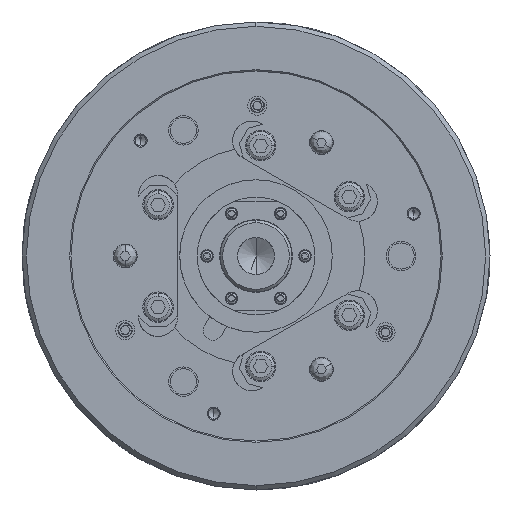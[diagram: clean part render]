
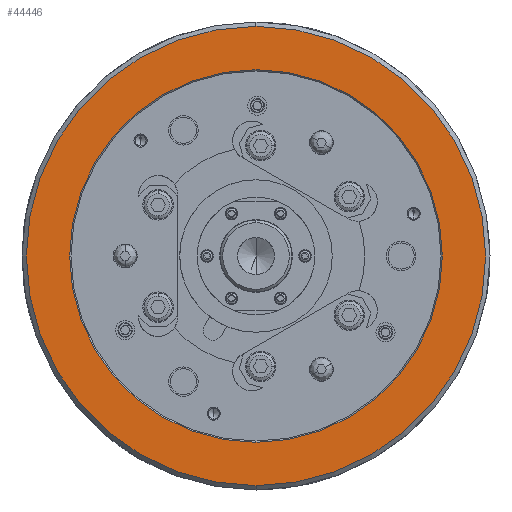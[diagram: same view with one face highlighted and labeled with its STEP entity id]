
A CAD part, left-side view. The second image highlights one B-rep face of the part: STEP entity #44446.
In plain terms, the highlighted planar face has unit normal (-1, 0, 0).
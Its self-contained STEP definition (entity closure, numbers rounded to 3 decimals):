
#328 = CIRCLE ( 'NONE', #44485, 85.6 ) ;
#1272 = ORIENTED_EDGE ( 'NONE', *, *, #39042, .F. ) ;
#2508 = DIRECTION ( 'NONE',  ( 1., 0., 0. ) ) ;
#3089 = CARTESIAN_POINT ( 'NONE',  ( -99., 0., 105.5 ) ) ;
#4822 = EDGE_CURVE ( 'NONE', #64275, #39747, #328, .T. ) ;
#10387 = FACE_OUTER_BOUND ( 'NONE', #80773, .T. ) ;
#12644 = FACE_BOUND ( 'NONE', #70548, .T. ) ;
#14189 = CARTESIAN_POINT ( 'NONE',  ( -99., 0., -105.5 ) ) ;
#15953 = EDGE_CURVE ( 'NONE', #39747, #64275, #22112, .T. ) ;
#19540 = DIRECTION ( 'NONE',  ( 1., 0., 0. ) ) ;
#20137 = EDGE_CURVE ( 'NONE', #64165, #81240, #54676, .T. ) ;
#20286 = PLANE ( 'NONE',  #21129 ) ;
#20916 = DIRECTION ( 'NONE',  ( 0., 0., 1. ) ) ;
#21012 = DIRECTION ( 'NONE',  ( 1., 0., 0. ) ) ;
#21043 = CARTESIAN_POINT ( 'NONE',  ( -99., 0., 0. ) ) ;
#21129 = AXIS2_PLACEMENT_3D ( 'NONE', #40912, #69439, #27362 ) ;
#22112 = CIRCLE ( 'NONE', #44219, 85.6 ) ;
#22302 = CARTESIAN_POINT ( 'NONE',  ( -99., 0., 85.6 ) ) ;
#27362 = DIRECTION ( 'NONE',  ( 0., 0., 1. ) ) ;
#31113 = CARTESIAN_POINT ( 'NONE',  ( -99., 0., -85.6 ) ) ;
#34111 = ORIENTED_EDGE ( 'NONE', *, *, #20137, .F. ) ;
#35942 = AXIS2_PLACEMENT_3D ( 'NONE', #44799, #2508, #51854 ) ;
#36382 = CARTESIAN_POINT ( 'NONE',  ( -99., 0., 0. ) ) ;
#38806 = ORIENTED_EDGE ( 'NONE', *, *, #15953, .T. ) ;
#39042 = EDGE_CURVE ( 'NONE', #81240, #64165, #53797, .T. ) ;
#39747 = VERTEX_POINT ( 'NONE', #22302 ) ;
#40912 = CARTESIAN_POINT ( 'NONE',  ( -99., 52.75, -91.366 ) ) ;
#43450 = DIRECTION ( 'NONE',  ( 0., 0., -1. ) ) ;
#44143 = ORIENTED_EDGE ( 'NONE', *, *, #4822, .T. ) ;
#44219 = AXIS2_PLACEMENT_3D ( 'NONE', #61637, #19540, #68663 ) ;
#44446 = ADVANCED_FACE ( 'NONE', ( #10387, #12644 ), #20286, .T. ) ;
#44485 = AXIS2_PLACEMENT_3D ( 'NONE', #21043, #21012, #20916 ) ;
#44799 = CARTESIAN_POINT ( 'NONE',  ( -99., 0., 0. ) ) ;
#51854 = DIRECTION ( 'NONE',  ( 0., 0., -1. ) ) ;
#53797 = CIRCLE ( 'NONE', #35942, 105.5 ) ;
#54676 = CIRCLE ( 'NONE', #62530, 105.5 ) ;
#61637 = CARTESIAN_POINT ( 'NONE',  ( -99., 0., 0. ) ) ;
#62530 = AXIS2_PLACEMENT_3D ( 'NONE', #36382, #85234, #43450 ) ;
#64165 = VERTEX_POINT ( 'NONE', #3089 ) ;
#64275 = VERTEX_POINT ( 'NONE', #31113 ) ;
#68663 = DIRECTION ( 'NONE',  ( 0., 0., 1. ) ) ;
#69439 = DIRECTION ( 'NONE',  ( -1., 0., 0. ) ) ;
#70548 = EDGE_LOOP ( 'NONE', ( #38806, #44143 ) ) ;
#80773 = EDGE_LOOP ( 'NONE', ( #1272, #34111 ) ) ;
#81240 = VERTEX_POINT ( 'NONE', #14189 ) ;
#85234 = DIRECTION ( 'NONE',  ( 1., 0., 0. ) ) ;
